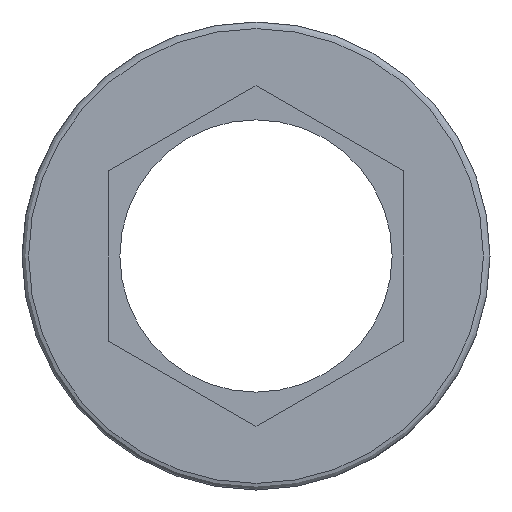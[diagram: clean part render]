
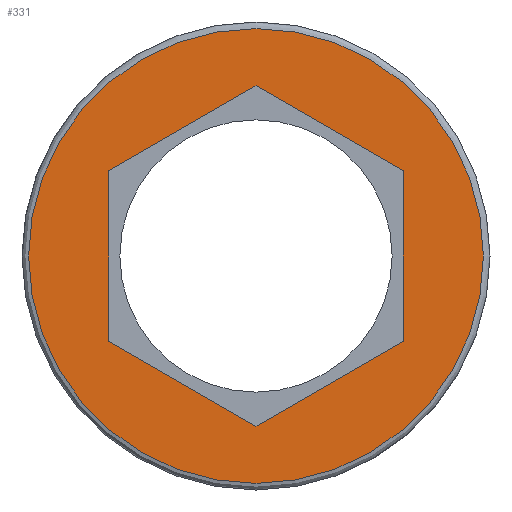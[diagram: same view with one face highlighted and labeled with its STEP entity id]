
A CAD part, front view. The second image highlights one B-rep face of the part: STEP entity #331.
In plain terms, the highlighted planar face has unit normal (0, -1, 0).
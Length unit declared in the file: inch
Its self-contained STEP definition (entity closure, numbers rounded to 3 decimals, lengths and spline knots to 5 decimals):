
#17=FACE_BOUND('',#108,.T.);
#22=PLANE('',#378);
#34=LINE('',#550,#57);
#35=LINE('',#552,#58);
#36=LINE('',#554,#59);
#37=LINE('',#556,#60);
#38=LINE('',#558,#61);
#39=LINE('',#559,#62);
#57=VECTOR('',#446,0.3937);
#58=VECTOR('',#447,0.3937);
#59=VECTOR('',#448,0.3937);
#60=VECTOR('',#449,0.3937);
#61=VECTOR('',#450,0.3937);
#62=VECTOR('',#451,0.3937);
#87=FACE_OUTER_BOUND('',#107,.T.);
#107=EDGE_LOOP('',(#253,#254));
#108=EDGE_LOOP('',(#255,#256,#257,#258,#259,#260));
#132=CIRCLE('',#370,0.2405);
#136=CIRCLE('',#374,0.2405);
#155=VERTEX_POINT('',#532);
#156=VERTEX_POINT('',#533);
#161=VERTEX_POINT('',#548);
#162=VERTEX_POINT('',#549);
#163=VERTEX_POINT('',#551);
#164=VERTEX_POINT('',#553);
#165=VERTEX_POINT('',#555);
#166=VERTEX_POINT('',#557);
#190=EDGE_CURVE('',#155,#156,#132,.T.);
#194=EDGE_CURVE('',#156,#155,#136,.T.);
#198=EDGE_CURVE('',#161,#162,#34,.T.);
#199=EDGE_CURVE('',#162,#163,#35,.T.);
#200=EDGE_CURVE('',#163,#164,#36,.T.);
#201=EDGE_CURVE('',#164,#165,#37,.T.);
#202=EDGE_CURVE('',#165,#166,#38,.T.);
#203=EDGE_CURVE('',#166,#161,#39,.T.);
#253=ORIENTED_EDGE('',*,*,#190,.F.);
#254=ORIENTED_EDGE('',*,*,#194,.F.);
#255=ORIENTED_EDGE('',*,*,#198,.T.);
#256=ORIENTED_EDGE('',*,*,#199,.T.);
#257=ORIENTED_EDGE('',*,*,#200,.T.);
#258=ORIENTED_EDGE('',*,*,#201,.T.);
#259=ORIENTED_EDGE('',*,*,#202,.T.);
#260=ORIENTED_EDGE('',*,*,#203,.T.);
#331=ADVANCED_FACE('',(#87,#17),#22,.T.);
#370=AXIS2_PLACEMENT_3D('',#534,#427,#428);
#374=AXIS2_PLACEMENT_3D('',#540,#435,#436);
#378=AXIS2_PLACEMENT_3D('',#547,#444,#445);
#427=DIRECTION('center_axis',(0.,1.,0.));
#428=DIRECTION('ref_axis',(0.,0.,1.));
#435=DIRECTION('center_axis',(0.,1.,0.));
#436=DIRECTION('ref_axis',(0.,0.,1.));
#444=DIRECTION('center_axis',(0.,-1.,0.));
#445=DIRECTION('ref_axis',(0.,0.,-1.));
#446=DIRECTION('',(0.866,0.,-0.5));
#447=DIRECTION('',(0.,0.,-1.));
#448=DIRECTION('',(-0.866,0.,-0.5));
#449=DIRECTION('',(-0.866,0.,0.5));
#450=DIRECTION('',(0.,0.,1.));
#451=DIRECTION('',(0.866,0.,0.5));
#532=CARTESIAN_POINT('',(0.,0.,-0.2405));
#533=CARTESIAN_POINT('',(0.,0.,0.2405));
#534=CARTESIAN_POINT('Origin',(0.,0.,0.));
#540=CARTESIAN_POINT('Origin',(0.,0.,0.));
#547=CARTESIAN_POINT('Origin',(0.,0.,-0.144));
#548=CARTESIAN_POINT('',(0.,0.,0.18013));
#549=CARTESIAN_POINT('',(0.156,0.,0.09007));
#550=CARTESIAN_POINT('',(0.07018,0.,0.13962));
#551=CARTESIAN_POINT('',(0.156,0.,-0.09007));
#552=CARTESIAN_POINT('',(0.156,0.,-0.02697));
#553=CARTESIAN_POINT('',(0.,0.,-0.18013));
#554=CARTESIAN_POINT('',(0.08582,0.,-0.13058));
#555=CARTESIAN_POINT('',(-0.156,0.,-0.09007));
#556=CARTESIAN_POINT('',(-0.00782,0.,-0.17562));
#557=CARTESIAN_POINT('',(-0.156,0.,0.09007));
#558=CARTESIAN_POINT('',(-0.156,0.,-0.11703));
#559=CARTESIAN_POINT('',(-0.14818,0.,0.09458));
